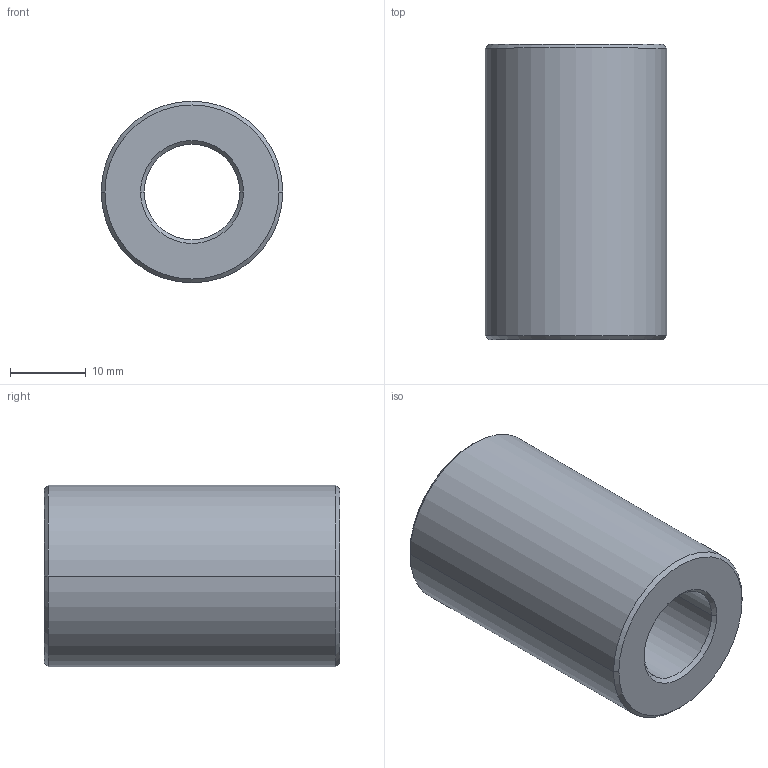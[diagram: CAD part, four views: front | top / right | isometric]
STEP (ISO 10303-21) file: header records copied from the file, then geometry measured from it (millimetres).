
FILE_DESCRIPTION((''),'2;1');
FILE_NAME('DUMMY_PIPE','2012-11-01T',('asus'),(''),'PRO/ENGINEER BY PARAMETRIC TECHNOLOGY CORPORATION, 2010480','PRO/ENGINEER BY PARAMETRIC TECHNOLOGY CORPORATION, 2010480','');
FILE_SCHEMA(('CONFIG_CONTROL_DESIGN'));
Length unit declared in the file: millimetre
Products named in the file (1): DUMMY_PIPE
Bounding box: 24 x 39 x 24 mm (x, y, z)
Volume: 12751.5 mm3; surface area: 5072.4 mm2
Topology: 1 solids, 1 shells, 14 faces, 28 edges, 16 vertices
Faces by surface type: cone 8, cylinder 4, plane 2
Entity records: 406 total; most frequent: DIRECTION 72, CARTESIAN_POINT 58, ORIENTED_EDGE 56, AXIS2_PLACEMENT_3D 30, EDGE_CURVE 28, VERTEX_POINT 16, EDGE_LOOP 16, CIRCLE 16
